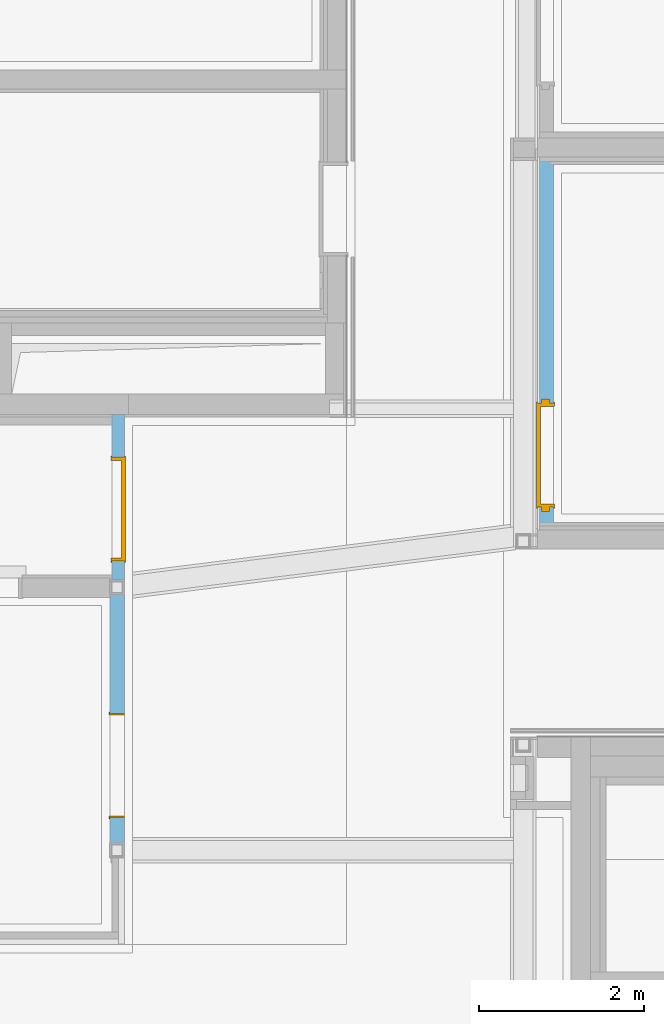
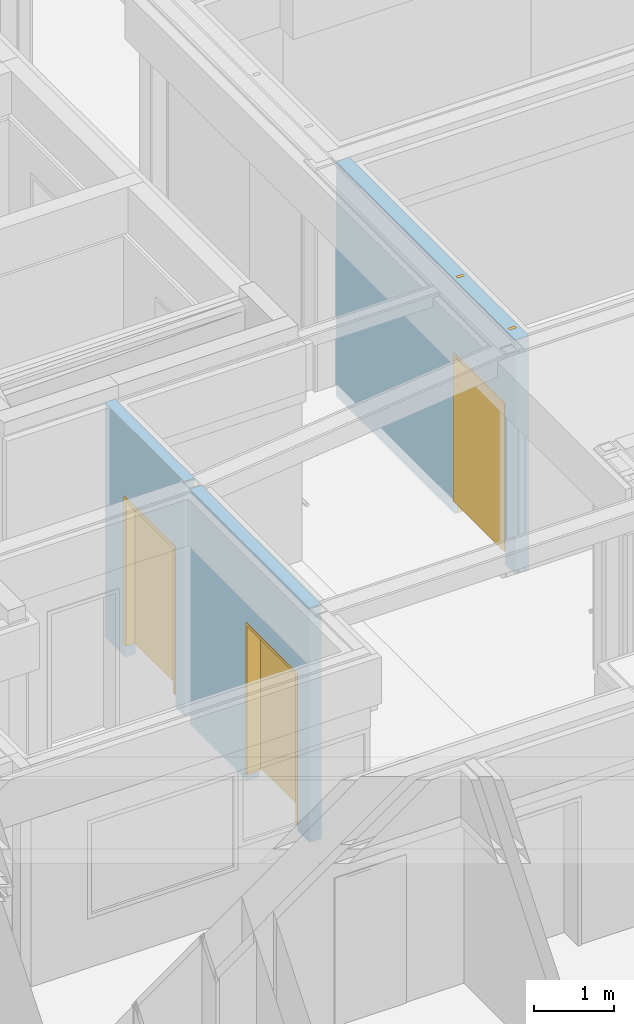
# One storey, part 121 of 207: 3 doors, 3 openings, plus 3 elements that do not belong to this part.
"""IFC4 building model written with IfcOpenShell, lengths in metres."""

import ifcopenshell
import ifcopenshell.guid

model = None  # the IFC model being written
_history = None  # IfcOwnerHistory: only IFC2X3 demands one
_inside = {}  # id of a spatial element -> (the spatial element, [elements in it])
_under = {}  # id of a project, library or spatial element -> (it, [spatial elements below it])
_declared = {}  # id of a project -> (the project, [libraries it declares])
_typed = {}  # id of a type object -> (the type object, [elements of that type])
_made_of = {}  # id of a material, layer set ... -> (it, [elements and type objects made of it])


def new_model(schema):
    """Start an empty IFC model of exactly this schema.

    Asked for "IFC4X3", IfcOpenShell would pick the latest addendum, in which some entities
    have other attributes; the version numbers below select the first issue.
    IFC2X3 requires an IfcOwnerHistory on every rooted entity: one is made here for all.
    """
    global model, _history
    if schema == "IFC4X3":
        model = ifcopenshell.file(schema_version=(4, 3, 0, 0))
    else:
        model = ifcopenshell.file(schema=schema)
    _inside.clear()
    _under.clear()
    _declared.clear()
    _typed.clear()
    _made_of.clear()
    _history = None
    if model.schema == "IFC2X3":
        org = make("IfcOrganization", Name="unknown")
        user = make(
            "IfcPersonAndOrganization",
            ThePerson=make("IfcPerson", FamilyName="unknown"),
            TheOrganization=org,
        )
        app = make(
            "IfcApplication",
            ApplicationDeveloper=org,
            Version="unknown",
            ApplicationFullName="unknown",
            ApplicationIdentifier="unknown",
        )
        _history = make(
            "IfcOwnerHistory",
            OwningUser=user,
            OwningApplication=app,
            ChangeAction="ADDED",
            CreationDate=0,
        )
    return model


def make(cls, **values):
    """One entity of the class cls with the attributes given. An attribute that is None is left unset."""
    return model.create_entity(
        cls, **{name: value for name, value in values.items() if value is not None}
    )


def entity(cls, *values):
    """Any entity or typed value of the class cls, its attributes in the order of the schema. None: left unset."""
    e = model.create_entity(cls)
    for i, value in enumerate(values):
        if value is not None:
            e[i] = value
    return e


def rooted(cls, **values):
    """An entity with a GlobalId (a new one), such as an element, a storey or a relation."""
    return make(cls, GlobalId=ifcopenshell.guid.new(), OwnerHistory=_history, **values)


def si_unit(unit_type, name, prefix=None):
    """IfcSIUnit, for example si_unit("LENGTHUNIT", "METRE", prefix="MILLI")."""
    return make("IfcSIUnit", UnitType=unit_type, Prefix=prefix, Name=name)


def converted_unit(unit_type, name, factor, base, dimensions=None, offset=None):
    """IfcConversionBasedUnit, such as the inch: factor (a typed value) times the base unit."""
    return make(
        "IfcConversionBasedUnit"
        if offset is None
        else "IfcConversionBasedUnitWithOffset",
        ConversionOffset=offset,
        Dimensions=None
        if dimensions is None
        else entity("IfcDimensionalExponents", *dimensions),
        UnitType=unit_type,
        Name=name,
        ConversionFactor=make(
            "IfcMeasureWithUnit", ValueComponent=factor, UnitComponent=base
        ),
    )


def derived_unit(unit_type, elements):
    """IfcDerivedUnit: a product of units, each with its exponent."""
    return make(
        "IfcDerivedUnit",
        Elements=[
            make("IfcDerivedUnitElement", Unit=unit, Exponent=power)
            for unit, power in elements
        ],
        UnitType=unit_type,
    )


def assignment(units):
    """IfcUnitAssignment: the units of a project."""
    return None if units is None else make("IfcUnitAssignment", Units=units)


def point(xyz):
    """IfcCartesianPoint."""
    return None if xyz is None else make("IfcCartesianPoint", Coordinates=xyz)


def direction(xyz):
    """IfcDirection."""
    return None if xyz is None else make("IfcDirection", DirectionRatios=xyz)


def frame(location, z_axis=None, x_axis=None):
    """IfcAxis2Placement3D, a coordinate frame: its origin and axes. An axis left out is left unset."""
    return make(
        "IfcAxis2Placement3D",
        Location=point(location),
        Axis=direction(z_axis),
        RefDirection=direction(x_axis),
    )


def frame_2d(location, x_axis=None):
    """IfcAxis2Placement2D, a coordinate frame in the plane: its origin and x axis."""
    return make(
        "IfcAxis2Placement2D", Location=point(location), RefDirection=direction(x_axis)
    )


def origin():
    """The frame at (0, 0, 0) with its axes left unset."""
    return frame((0.0, 0.0, 0.0))


def origin_with_axes():
    """The frame at (0, 0, 0) with the z axis (0, 0, 1) and the x axis (1, 0, 0) written out."""
    return frame((0.0, 0.0, 0.0), z_axis=(0.0, 0.0, 1.0), x_axis=(1.0, 0.0, 0.0))


def place(relative_to, where):
    """IfcLocalPlacement: puts the frame where relative to a parent placement (None: the world)."""
    return make(
        "IfcLocalPlacement", PlacementRelTo=relative_to, RelativePlacement=where
    )


def context(
    kind, dimensions, precision=None, world=None, true_north=None, identifier=None
):
    """IfcGeometricRepresentationContext, for example the 3D "Model" context."""
    return make(
        "IfcGeometricRepresentationContext",
        ContextIdentifier=identifier,
        ContextType=kind,
        CoordinateSpaceDimension=dimensions,
        Precision=precision,
        WorldCoordinateSystem=world,
        TrueNorth=true_north,
    )


def subcontext(parent, identifier, kind, view, scale=None):
    """IfcGeometricRepresentationSubContext, for example "Body" below "Model"."""
    return make(
        "IfcGeometricRepresentationSubContext",
        ContextIdentifier=identifier,
        ContextType=kind,
        ParentContext=parent,
        TargetScale=scale,
        TargetView=view,
    )


def project(units=None, contexts=None):
    """IfcProject with its units and contexts."""
    return rooted(
        "IfcProject",
        Name="project",
        RepresentationContexts=contexts,
        UnitsInContext=assignment(units),
    )


def spatial(cls, under=None, at=None, **own):
    """A site, building, storey or space (cls), placed at a placement, below another one or the project."""
    s = rooted(cls, ObjectPlacement=at, **own)
    if under is not None:
        _under.setdefault(under.id(), (under, []))[1].append(s)
    return s


def polyline(points):
    """IfcPolyline through the points."""
    return make("IfcPolyline", Points=[point(p) for p in points])


def profile(cls, at=None, kind="AREA", **sizes):
    """A parametric profile (cls). Its sizes go by their IFC names, for example OverallWidth=200.0."""
    return make(cls, ProfileType=kind, Position=at, **sizes)


def rectangle(**sizes):
    """IfcRectangleProfileDef."""
    return profile("IfcRectangleProfileDef", **sizes)


def outline(outer, holes=None, kind="AREA"):
    """IfcArbitraryClosedProfileDef: a profile drawn as a closed curve; with holes, ...WithVoids."""
    if holes is None:
        return make("IfcArbitraryClosedProfileDef", ProfileType=kind, OuterCurve=outer)
    return make(
        "IfcArbitraryProfileDefWithVoids",
        ProfileType=kind,
        OuterCurve=outer,
        InnerCurves=holes,
    )


def extrude(swept, where, along, depth):
    """IfcExtrudedAreaSolid: the profile swept, set in the frame where, extruded along a direction by depth."""
    return make(
        "IfcExtrudedAreaSolid",
        SweptArea=swept,
        Position=where,
        ExtrudedDirection=direction(along),
        Depth=depth,
    )


def faces_of(points, faces, orient=None, outer=None):
    """IfcFace entities. A face is a list of loops; a loop is a list of indices into points, from 0.

    orient and outer hold one flag for each loop. By default every Orientation is true, the
    first loop of a face is its IfcFaceOuterBound and the others are IfcFaceBound.
    """
    made = []
    for i, loops in enumerate(faces):
        bounds = []
        for j, loop in enumerate(loops):
            is_outer = j == 0 if outer is None else outer[i][j]
            bounds.append(
                make(
                    "IfcFaceOuterBound" if is_outer else "IfcFaceBound",
                    Bound=make("IfcPolyLoop", Polygon=[points[k] for k in loop]),
                    Orientation=True if orient is None else orient[i][j],
                )
            )
        made.append(make("IfcFace", Bounds=bounds))
    return made


def faceted_brep(points, faces, orient=None, outer=None, voids=None):
    """IfcFacetedBrep: a solid bounded by flat faces; with voids (closed shells), ...WithVoids."""
    shared = [point(p) for p in points]
    hull = make("IfcClosedShell", CfsFaces=faces_of(shared, faces, orient, outer))
    if voids is None:
        return make("IfcFacetedBrep", Outer=hull)
    return make(
        "IfcFacetedBrepWithVoids",
        Outer=hull,
        Voids=[
            make(cls, CfsFaces=faces_of(shared, fs, o, b)) for cls, fs, o, b in voids
        ],
    )


def shape(context_of_items, identifier, shape_type, items):
    """IfcShapeRepresentation: the items that make up one representation, for example the "Body"."""
    return make(
        "IfcShapeRepresentation",
        ContextOfItems=context_of_items,
        RepresentationIdentifier=identifier,
        RepresentationType=shape_type,
        Items=items,
    )


def source(mapping_origin, context_of_items, identifier, shape_type, items):
    """IfcRepresentationMap: a shape defined once, which mapped items show again and again."""
    return make(
        "IfcRepresentationMap",
        MappingOrigin=mapping_origin,
        MappedRepresentation=shape(context_of_items, identifier, shape_type, items),
    )


def transform(
    local_origin,
    x_axis=None,
    y_axis=None,
    z_axis=None,
    scale=None,
    scale2=None,
    scale3=None,
    uniform=True,
):
    """IfcCartesianTransformationOperator3D, or its non-uniform kind. x_axis, y_axis, z_axis: its Axis1, 2, 3."""
    if uniform:
        return make(
            "IfcCartesianTransformationOperator3D",
            Axis1=direction(x_axis),
            Axis2=direction(y_axis),
            LocalOrigin=point(local_origin),
            Scale=scale,
            Axis3=direction(z_axis),
        )
    return make(
        "IfcCartesianTransformationOperator3DnonUniform",
        Axis1=direction(x_axis),
        Axis2=direction(y_axis),
        LocalOrigin=point(local_origin),
        Scale=scale,
        Axis3=direction(z_axis),
        Scale2=scale2,
        Scale3=scale3,
    )


def mapped(mapping_source, mapping_target):
    """IfcMappedItem: shows the shape of a source again, moved by a transform."""
    return make(
        "IfcMappedItem", MappingSource=mapping_source, MappingTarget=mapping_target
    )


def material(Name=None, Category=None):
    """IfcMaterial."""
    return make("IfcMaterial", Name=Name, Category=Category)


def made_of(thing, what):
    """Note that an element or type object is made of a material, layer set ...; save() writes the relation."""
    if what is not None:
        _made_of.setdefault(what.id(), (what, []))[1].append(thing)
    return thing


def type_object(cls, material=None, **own):
    """A type object (cls), such as IfcWallType, which elements share."""
    return made_of(rooted(cls, **own), material)


def element(
    cls,
    number,
    at=None,
    inside=None,
    cuts=None,
    type_object=None,
    material=None,
    context=None,
    identifier="Body",
    shape_type=None,
    held_by="IfcProductDefinitionShape",
    body=None,
    shapes=None,
    **own,
):
    """One element of the class cls, such as IfcWall. Its Tag is "e" and its number.

    at: its placement. inside: the storey or other place that contains it. cuts: it is an
    opening in that element (IfcRelVoidsElement). A single representation is given by context,
    identifier, shape_type and body (its items); several are given by shapes. held_by: the class
    of the entity that holds the representations. save() writes the other relations.
    """
    e = rooted(cls, Tag="e%d" % number, ObjectPlacement=at, **own)
    if body is not None:
        shapes = [shape(context, identifier, shape_type, body)]
    if shapes is not None:
        e.Representation = make(held_by, Representations=shapes)
    if inside is not None:
        _inside.setdefault(inside.id(), (inside, []))[1].append(e)
    if cuts is not None:
        rooted(
            "IfcRelVoidsElement", RelatingBuildingElement=cuts, RelatedOpeningElement=e
        )
    if type_object is not None:
        _typed.setdefault(type_object.id(), (type_object, []))[1].append(e)
    return made_of(e, material)


def fill(opening, filler):
    """IfcRelFillsElement: the door or window that sits in an opening."""
    return rooted(
        "IfcRelFillsElement",
        RelatingOpeningElement=opening,
        RelatedBuildingElement=filler,
    )


def aggregate(whole, parts):
    """IfcRelAggregates: a whole, such as a stair, and the parts it consists of."""
    return rooted("IfcRelAggregates", RelatingObject=whole, RelatedObjects=parts)


def save(model, path):
    """Write the relations noted so far, then the file.

    IfcRelAggregates (storeys below a building ...), IfcRelContainedInSpatialStructure (elements
    in a storey), IfcRelDefinesByType, IfcRelAssociatesMaterial and IfcRelDeclares: one each for
    every whole, place, type object, material and project.
    """
    for whole, parts in _under.values():
        aggregate(whole, parts)
    for where, things in _inside.values():
        rooted(
            "IfcRelContainedInSpatialStructure",
            RelatedElements=things,
            RelatingStructure=where,
        )
    for kind, things in _typed.values():
        rooted("IfcRelDefinesByType", RelatedObjects=things, RelatingType=kind)
    for what, things in _made_of.values():
        rooted("IfcRelAssociatesMaterial", RelatedObjects=things, RelatingMaterial=what)
    for by, libraries in _declared.values():
        rooted("IfcRelDeclares", RelatingContext=by, RelatedDefinitions=libraries)
    model.write(path)


model = new_model("IFC4")

# Units and contexts
model_context = context("Model", 3, precision=1e-05, world=origin())
body_context = subcontext(model_context, "Body", "Model", "MODEL_VIEW")
ifc_project = project(units=[si_unit("LENGTHUNIT", "METRE"), si_unit("AREAUNIT", "SQUARE_METRE"), si_unit("VOLUMEUNIT", "CUBIC_METRE"), si_unit("MASSUNIT", "GRAM", prefix="KILO"), converted_unit("PLANEANGLEUNIT", "DEGREE", entity("IfcPlaneAngleMeasure", 0.0174532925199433), si_unit("PLANEANGLEUNIT", "RADIAN"), dimensions=[0, 0, 0, 0, 0, 0, 0]), derived_unit("THERMALTRANSMITTANCEUNIT", [(si_unit("POWERUNIT", "WATT"), 1), (si_unit("THERMODYNAMICTEMPERATUREUNIT", "KELVIN"), -1), (si_unit("LENGTHUNIT", "METRE"), -2)]), derived_unit("VOLUMETRICFLOWRATEUNIT", [(si_unit("LENGTHUNIT", "METRE"), 3), (converted_unit("TIMEUNIT", "hour", entity("IfcTimeMeasure", 3600.0), si_unit("TIMEUNIT", "SECOND"), dimensions=[0, 0, 1, 0, 0, 0, 0]), -1), (si_unit("LENGTHUNIT", "METRE"), -1)])], contexts=[model_context])

# Site, building, storey
site_placement = place(None, origin())
site = spatial("IfcSite", under=ifc_project, at=site_placement, Name="Psychiatrie Neubau Wunstorf", CompositionType="ELEMENT")
building_placement = place(site_placement, origin())
building = spatial("IfcBuilding", under=site, at=building_placement, Name="Neubau H2 Stationsgebäude", CompositionType="ELEMENT")
storey_placement = place(building_placement, frame((0.0, 0.0, -0.2)))
storey = spatial("IfcBuildingStorey", under=building, at=storey_placement, Name="H2 Ebene 0", CompositionType="ELEMENT", Elevation=-0.2)

# Wall, opening, door
ifc_material_1 = material(Name="WI-LB")
wall_1_placement = place(storey_placement, frame((65.4249963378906, 4.04999694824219, 0.0), z_axis=(0.0, 0.0, 1.0), x_axis=(0.0, 1.0, 0.0)))
wall_1 = element("IfcWall", 1, at=wall_1_placement, inside=storey, material=ifc_material_1, context=body_context, shape_type="SweptSolid", body=[
    extrude(rectangle(XDim=3.00650268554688, YDim=0.175, at=frame_2d((1.50325134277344, 0.0875), x_axis=(1.0, 0.0))), origin_with_axes(), (0.0, 0.0, 1.0), 3.6),
])
opening_1_placement = place(wall_1_placement, frame((0.307502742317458, 0.0, 0.0), z_axis=(0.0, 1.0, 0.0), x_axis=(0.0, 0.0, 1.0)))
opening_1 = element("IfcOpeningElement", 2, at=opening_1_placement, cuts=wall_1, Name="Türöffnung", ObjectType="Opening", context=body_context, shape_type="SweptSolid", body=[
    extrude(outline(polyline([(2.41, 1.26), (2.41, 0.0), (0.0, 0.0), (0.0, 1.26), (2.41, 1.26)])), origin_with_axes(), (0.0, 0.0, 1.0), 0.175),
])
ifc_material_2 = material(Name="TI-1F-UZ-ZK")
door_type_1 = type_object("IfcDoorType", Name="SMT", OperationType="SLIDING_TO_LEFT", ParameterTakesPrecedence=False, PredefinedType="DOOR")
shared_shape_1 = source(origin_with_axes(), body_context, "Body", "Brep", [
    faceted_brep([(-0.0500000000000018, -0.0349999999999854, 2.41), (2.72, -0.0349999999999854, 2.41), (2.72, 0.115000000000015, 2.41), (-0.0500000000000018, 0.115000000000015, 2.41), (-0.0500000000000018, 0.115000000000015, 2.66), (2.72, 0.115000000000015, 2.66), (2.72, -0.0349999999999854, 2.66), (-0.0500000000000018, -0.0349999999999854, 2.66)], [[[0, 1, 2, 3]], [[4, 5, 6, 7]], [[3, 4, 7, 0]], [[2, 5, 4, 3]], [[1, 6, 5, 2]], [[0, 7, 6, 1]]], orient=[[False], [False], [False], [False], [False], [False]]),
])
shared_shape_2 = source(origin_with_axes(), body_context, "Body", "Brep", [
    faceted_brep([(1.3375, 0.152500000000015, 0.0), (1.3375, 0.252500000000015, 0.0), (1.2875, 0.252500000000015, 0.0), (1.2875, 0.152500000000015, 0.0), (1.3375, 0.252500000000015, 3.55), (1.3375, 0.152500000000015, 3.55), (1.2875, 0.152500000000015, 3.55), (1.2875, 0.252500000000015, 3.55)], [[[0, 1, 2, 3]], [[4, 5, 6, 7]], [[1, 0, 5, 4]], [[2, 1, 4, 7]], [[3, 2, 7, 6]], [[0, 3, 6, 5]]], orient=[[False], [False], [False], [False], [False], [False]]),
    faceted_brep([(2.6675, 0.152500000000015, 0.0), (2.6675, 0.252500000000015, 0.0), (2.6175, 0.252500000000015, 0.0), (2.6175, 0.152500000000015, 0.0), (2.6675, 0.252500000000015, 3.55), (2.6675, 0.152500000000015, 3.55), (2.6175, 0.152500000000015, 3.55), (2.6175, 0.252500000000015, 3.55)], [[[0, 1, 2, 3]], [[4, 5, 6, 7]], [[1, 0, 5, 4]], [[2, 1, 4, 7]], [[3, 2, 7, 6]], [[0, 3, 6, 5]]], orient=[[False], [False], [False], [False], [False], [False]]),
    faceted_brep([(-0.0275000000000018, 0.152500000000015, 0.0), (-0.0275000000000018, 0.252500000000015, 0.0), (-0.0775000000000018, 0.252500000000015, 0.0), (-0.0775000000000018, 0.152500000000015, 0.0), (-0.0275000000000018, 0.252500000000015, 3.55), (-0.0275000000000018, 0.152500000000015, 3.55), (-0.0775000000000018, 0.152500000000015, 3.55), (-0.0775000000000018, 0.252500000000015, 3.55)], [[[0, 1, 2, 3]], [[4, 5, 6, 7]], [[1, 0, 5, 4]], [[2, 1, 4, 7]], [[3, 2, 7, 6]], [[0, 3, 6, 5]]], orient=[[False], [False], [False], [False], [False], [False]]),
    faceted_brep([(2.6175, 0.152500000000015, 2.4375), (2.6175, 0.252500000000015, 2.4375), (-0.0275000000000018, 0.252500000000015, 2.4375), (-0.0275000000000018, 0.152500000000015, 2.4375), (2.6175, 0.252500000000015, 2.4875), (2.6175, 0.152500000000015, 2.4875), (-0.0275000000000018, 0.152500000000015, 2.4875), (-0.0275000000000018, 0.252500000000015, 2.4875)], [[[0, 1, 2, 3]], [[4, 5, 6, 7]], [[1, 0, 5, 4]], [[2, 1, 4, 7]], [[3, 2, 7, 6]], [[0, 3, 6, 5]]], orient=[[False], [False], [False], [False], [False], [False]]),
])
shared_shape_3 = source(origin_with_axes(), body_context, "Body", "Brep", [
    faceted_brep([(1.26, 0.300000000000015, 2.41), (1.24, 0.300000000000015, 2.41), (1.24, 0.300000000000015, 0.1), (1.26, 0.300000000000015, 0.1), (1.26, 0.105000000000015, 0.1), (1.24, 0.105000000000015, 0.1), (1.24, 0.105000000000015, 2.41), (1.26, 0.105000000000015, 2.41)], [[[0, 1, 2, 3]], [[4, 5, 6, 7]], [[3, 4, 7, 0]], [[2, 5, 4, 3]], [[1, 6, 5, 2]], [[0, 7, 6, 1]]], orient=[[False], [False], [False], [False], [False], [False]]),
    faceted_brep([(1.26, 0.300000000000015, 2.43), (1.26, 0.300000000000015, 0.1), (1.28, 0.300000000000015, 0.1), (1.28, 0.300000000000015, 2.43), (1.26, 0.290000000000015, 0.1), (1.26, 0.290000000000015, 2.43), (1.28, 0.290000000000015, 2.43), (1.28, 0.290000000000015, 0.1)], [[[0, 1, 2, 3]], [[4, 5, 6, 7]], [[1, 0, 5, 4]], [[2, 1, 4, 7]], [[3, 2, 7, 6]], [[0, 3, 6, 5]]], orient=[[False], [False], [False], [False], [False], [False]]),
    faceted_brep([(1.26, 0.115000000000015, 2.43), (1.26, 0.115000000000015, 0.1), (1.28, 0.115000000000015, 0.1), (1.28, 0.115000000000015, 2.43), (1.26, 0.105000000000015, 0.1), (1.26, 0.105000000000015, 2.43), (1.28, 0.105000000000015, 2.43), (1.28, 0.105000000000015, 0.1)], [[[0, 1, 2, 3]], [[4, 5, 6, 7]], [[1, 0, 5, 4]], [[2, 1, 4, 7]], [[3, 2, 7, 6]], [[0, 3, 6, 5]]], orient=[[False], [False], [False], [False], [False], [False]]),
    faceted_brep([(0.0199999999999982, 0.300000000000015, 2.41), (0.0, 0.300000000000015, 2.41), (0.0, 0.300000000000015, 0.1), (0.0199999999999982, 0.300000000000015, 0.1), (0.0199999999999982, 0.105000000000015, 0.1), (0.0, 0.105000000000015, 0.1), (0.0, 0.105000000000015, 2.41), (0.0199999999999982, 0.105000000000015, 2.41)], [[[0, 1, 2, 3]], [[4, 5, 6, 7]], [[3, 4, 7, 0]], [[2, 5, 4, 3]], [[1, 6, 5, 2]], [[0, 7, 6, 1]]], orient=[[False], [False], [False], [False], [False], [False]]),
    faceted_brep([(0.0, 0.300000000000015, 2.43), (-0.0200000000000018, 0.300000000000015, 2.43), (-0.0200000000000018, 0.300000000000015, 0.1), (0.0, 0.300000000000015, 0.1), (0.0, 0.290000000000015, 0.1), (-0.0200000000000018, 0.290000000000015, 0.1), (-0.0200000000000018, 0.290000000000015, 2.43), (0.0, 0.290000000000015, 2.43)], [[[0, 1, 2, 3]], [[4, 5, 6, 7]], [[3, 4, 7, 0]], [[2, 5, 4, 3]], [[1, 6, 5, 2]], [[0, 7, 6, 1]]], orient=[[False], [False], [False], [False], [False], [False]]),
    faceted_brep([(0.0, 0.115000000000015, 2.43), (-0.0200000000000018, 0.115000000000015, 2.43), (-0.0200000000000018, 0.115000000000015, 0.1), (0.0, 0.115000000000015, 0.1), (0.0, 0.105000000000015, 0.1), (-0.0200000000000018, 0.105000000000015, 0.1), (-0.0200000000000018, 0.105000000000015, 2.43), (0.0, 0.105000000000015, 2.43)], [[[0, 1, 2, 3]], [[4, 5, 6, 7]], [[3, 4, 7, 0]], [[2, 5, 4, 3]], [[1, 6, 5, 2]], [[0, 7, 6, 1]]], orient=[[False], [False], [False], [False], [False], [False]]),
    faceted_brep([(1.24, 0.300000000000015, 2.41), (0.0199999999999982, 0.300000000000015, 2.41), (0.0199999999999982, 0.300000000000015, 2.385), (1.24, 0.300000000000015, 2.385), (1.24, 0.105000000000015, 2.385), (0.0199999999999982, 0.105000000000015, 2.385), (0.0199999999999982, 0.105000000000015, 2.41), (1.24, 0.105000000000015, 2.41)], [[[0, 1, 2, 3]], [[4, 5, 6, 7]], [[3, 4, 7, 0]], [[2, 5, 4, 3]], [[1, 6, 5, 2]], [[0, 7, 6, 1]]], orient=[[False], [False], [False], [False], [False], [False]]),
    faceted_brep([(1.26, 0.300000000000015, 2.43), (0.0, 0.300000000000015, 2.43), (0.0, 0.300000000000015, 2.41), (1.26, 0.300000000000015, 2.41), (1.26, 0.290000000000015, 2.41), (0.0, 0.290000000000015, 2.41), (0.0, 0.290000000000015, 2.43), (1.26, 0.290000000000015, 2.43)], [[[0, 1, 2, 3]], [[4, 5, 6, 7]], [[3, 4, 7, 0]], [[2, 5, 4, 3]], [[1, 6, 5, 2]], [[0, 7, 6, 1]]], orient=[[False], [False], [False], [False], [False], [False]]),
    faceted_brep([(1.26, 0.115000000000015, 2.43), (0.0, 0.115000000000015, 2.43), (0.0, 0.115000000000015, 2.41), (1.26, 0.115000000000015, 2.41), (1.26, 0.105000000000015, 2.41), (0.0, 0.105000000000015, 2.41), (0.0, 0.105000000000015, 2.43), (1.26, 0.105000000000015, 2.43)], [[[0, 1, 2, 3]], [[4, 5, 6, 7]], [[3, 4, 7, 0]], [[2, 5, 4, 3]], [[1, 6, 5, 2]], [[0, 7, 6, 1]]], orient=[[False], [False], [False], [False], [False], [False]]),
    faceted_brep([(1.392, 0.0750000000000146, 2.465), (0.111999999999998, 0.0750000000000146, 2.465), (0.111999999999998, 0.0750000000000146, 0.1), (1.392, 0.0750000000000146, 0.1), (1.392, 0.0250000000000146, 0.1), (0.111999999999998, 0.0250000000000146, 0.1), (0.111999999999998, 0.0250000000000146, 2.465), (1.392, 0.0250000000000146, 2.465)], [[[0, 1, 2, 3]], [[4, 5, 6, 7]], [[3, 4, 7, 0]], [[2, 5, 4, 3]], [[1, 6, 5, 2]], [[0, 7, 6, 1]]], orient=[[False], [False], [False], [False], [False], [False]]),
])
door_1_placement = place(opening_1_placement, frame((0.0, 0.0, -0.115), z_axis=(1.0, 0.0, 0.0), x_axis=(0.0, 1.0, 0.0)))
door_1 = element("IfcDoor", 3, at=door_1_placement, inside=storey, type_object=door_type_1, material=ifc_material_2, Name="SMT", OverallHeight=2.41, OverallWidth=1.26, context=body_context, shape_type="MappedRepresentation", body=[
    mapped(shared_shape_1, transform((0.0, 0.0, 0.0), x_axis=(1.0, 0.0, 0.0), y_axis=(0.0, 1.0, 0.0), z_axis=(0.0, 0.0, 1.0), scale=1.0)),
    mapped(shared_shape_2, transform((0.0, 0.0, 0.0), x_axis=(1.0, 0.0, 0.0), y_axis=(0.0, 1.0, 0.0), z_axis=(0.0, 0.0, 1.0), scale=1.0)),
    mapped(shared_shape_3, transform((0.0, 0.0, 0.0), x_axis=(1.0, 0.0, 0.0), y_axis=(0.0, 1.0, 0.0), z_axis=(0.0, 0.0, 1.0), scale=1.0)),
])
fill(opening_1, door_1)

ifc_material_3 = material(Name="WI-LB")
wall_2_placement = place(storey_placement, frame((65.4249963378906, 7.23649963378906, 0.0), z_axis=(0.0, 0.0, 1.0), x_axis=(0.0, 1.0, 0.0)))
wall_2 = element("IfcWall", 4, at=wall_2_placement, inside=storey, material=ifc_material_3, context=body_context, shape_type="SweptSolid", body=[
    extrude(rectangle(XDim=1.9985000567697, YDim=0.15, at=frame_2d((0.999250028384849, 0.075), x_axis=(1.0, 0.0))), origin_with_axes(), (0.0, 0.0, 1.0), 3.6),
])
opening_2_placement = place(wall_2_placement, frame((1.4851960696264, 0.15, 0.0), z_axis=(0.0, -1.0, 0.0), x_axis=(0.0, 0.0, 1.0)))
opening_2 = element("IfcOpeningElement", 5, at=opening_2_placement, cuts=wall_2, Name="Türöffnung", ObjectType="Opening", context=body_context, shape_type="SweptSolid", body=[
    extrude(outline(polyline([(2.46, 1.26), (2.46, 0.0), (0.0, 0.0), (0.0, 1.26), (2.46, 1.26)])), origin_with_axes(), (0.0, 0.0, 1.0), 0.15),
])
ifc_material_4 = material(Name="TI-1F-UZ-ZK")
door_type_2 = type_object("IfcDoorType", Name="SMT", OperationType="SINGLE_SWING_RIGHT", ParameterTakesPrecedence=False, PredefinedType="DOOR")
shared_shape_4 = source(origin_with_axes(), body_context, "Body", "Brep", [
    faceted_brep([(-0.0499999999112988, 0.0250000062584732, 0.0), (0.0, 0.0250000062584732, 0.0), (0.0, 0.124999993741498, 0.0), (-0.0499999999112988, 0.124999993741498, 0.0), (-0.0499999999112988, 0.124999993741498, 3.6), (0.0, 0.124999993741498, 3.6), (0.0, 0.0250000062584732, 3.6), (-0.0499999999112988, 0.0250000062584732, 3.6)], [[[0, 1, 2, 3]], [[4, 5, 6, 7]], [[3, 4, 7, 0]], [[2, 5, 4, 3]], [[1, 6, 5, 2]], [[0, 7, 6, 1]]], orient=[[False], [False], [False], [False], [False], [False]]),
    faceted_brep([(1.26, 0.0250000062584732, 0.0), (1.30999999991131, 0.0250000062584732, 0.0), (1.30999999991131, 0.124999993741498, 0.0), (1.26, 0.124999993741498, 0.0), (1.26, 0.124999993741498, 3.6), (1.30999999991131, 0.124999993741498, 3.6), (1.30999999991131, 0.0250000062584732, 3.6), (1.26, 0.0250000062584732, 3.6)], [[[0, 1, 2, 3]], [[4, 5, 6, 7]], [[3, 4, 7, 0]], [[2, 5, 4, 3]], [[1, 6, 5, 2]], [[0, 7, 6, 1]]], orient=[[False], [False], [False], [False], [False], [False]]),
    faceted_brep([(0.0, 0.0250000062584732, 2.46), (1.26, 0.0250000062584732, 2.46), (1.26, 0.124999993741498, 2.46), (0.0, 0.124999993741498, 2.46), (0.0, 0.124999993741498, 2.51), (1.26, 0.124999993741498, 2.51), (1.26, 0.0250000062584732, 2.51), (0.0, 0.0250000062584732, 2.51)], [[[0, 1, 2, 3]], [[4, 5, 6, 7]], [[3, 4, 7, 0]], [[2, 5, 4, 3]], [[1, 6, 5, 2]], [[0, 7, 6, 1]]], orient=[[False], [False], [False], [False], [False], [False]]),
])
shared_shape_5 = source(origin_with_axes(), body_context, "Body", "Brep", [
    faceted_brep([(1.26, -0.0150000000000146, 2.46), (1.26, -0.0150000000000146, 0.2), (1.22, -0.0150000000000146, 0.2), (1.22, -0.0150000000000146, 2.46), (1.26, 0.164999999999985, 0.2), (1.26, 0.164999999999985, 2.46), (1.22, 0.164999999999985, 2.46), (1.22, 0.164999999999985, 0.2)], [[[0, 1, 2, 3]], [[4, 5, 6, 7]], [[1, 0, 5, 4]], [[2, 1, 4, 7]], [[3, 2, 7, 6]], [[0, 3, 6, 5]]], orient=[[False], [False], [False], [False], [False], [False]]),
    faceted_brep([(1.26, -0.0150000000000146, 2.475), (1.275, -0.0150000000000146, 2.475), (1.275, -0.0150000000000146, 0.2), (1.26, -0.0150000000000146, 0.2), (1.26, 0.0, 0.2), (1.275, 0.0, 0.2), (1.275, 0.0, 2.475), (1.26, 0.0, 2.475)], [[[0, 1, 2, 3]], [[4, 5, 6, 7]], [[3, 4, 7, 0]], [[2, 5, 4, 3]], [[1, 6, 5, 2]], [[0, 7, 6, 1]]], orient=[[False], [False], [False], [False], [False], [False]]),
    faceted_brep([(1.26, 0.149999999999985, 2.475), (1.275, 0.149999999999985, 2.475), (1.275, 0.149999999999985, 0.2), (1.26, 0.149999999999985, 0.2), (1.26, 0.164999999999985, 0.2), (1.275, 0.164999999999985, 0.2), (1.275, 0.164999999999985, 2.475), (1.26, 0.164999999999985, 2.475)], [[[0, 1, 2, 3]], [[4, 5, 6, 7]], [[3, 4, 7, 0]], [[2, 5, 4, 3]], [[1, 6, 5, 2]], [[0, 7, 6, 1]]], orient=[[False], [False], [False], [False], [False], [False]]),
    faceted_brep([(0.0400000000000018, -0.0150000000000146, 2.46), (0.0400000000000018, -0.0150000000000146, 0.2), (0.0, -0.0150000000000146, 0.2), (0.0, -0.0150000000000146, 2.46), (0.0400000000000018, 0.164999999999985, 0.2), (0.0400000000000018, 0.164999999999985, 2.46), (0.0, 0.164999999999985, 2.46), (0.0, 0.164999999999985, 0.2)], [[[0, 1, 2, 3]], [[4, 5, 6, 7]], [[1, 0, 5, 4]], [[2, 1, 4, 7]], [[3, 2, 7, 6]], [[0, 3, 6, 5]]], orient=[[False], [False], [False], [False], [False], [False]]),
    faceted_brep([(0.0, -0.0150000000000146, 2.475), (0.0, -0.0150000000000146, 0.2), (-0.0149999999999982, -0.0150000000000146, 0.2), (-0.0149999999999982, -0.0150000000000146, 2.475), (0.0, 0.0, 0.2), (0.0, 0.0, 2.475), (-0.0149999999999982, 0.0, 2.475), (-0.0149999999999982, 0.0, 0.2)], [[[0, 1, 2, 3]], [[4, 5, 6, 7]], [[1, 0, 5, 4]], [[2, 1, 4, 7]], [[3, 2, 7, 6]], [[0, 3, 6, 5]]], orient=[[False], [False], [False], [False], [False], [False]]),
    faceted_brep([(0.0, 0.149999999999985, 2.475), (0.0, 0.149999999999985, 0.2), (-0.0149999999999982, 0.149999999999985, 0.2), (-0.0149999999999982, 0.149999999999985, 2.475), (0.0, 0.164999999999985, 0.2), (0.0, 0.164999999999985, 2.475), (-0.0149999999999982, 0.164999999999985, 2.475), (-0.0149999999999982, 0.164999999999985, 0.2)], [[[0, 1, 2, 3]], [[4, 5, 6, 7]], [[1, 0, 5, 4]], [[2, 1, 4, 7]], [[3, 2, 7, 6]], [[0, 3, 6, 5]]], orient=[[False], [False], [False], [False], [False], [False]]),
    faceted_brep([(1.22, -0.0150000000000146, 2.46), (1.22, -0.0150000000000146, 2.42), (0.0400000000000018, -0.0150000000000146, 2.42), (0.0400000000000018, -0.0150000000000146, 2.46), (1.22, 0.164999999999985, 2.42), (1.22, 0.164999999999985, 2.46), (0.0400000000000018, 0.164999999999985, 2.46), (0.0400000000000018, 0.164999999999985, 2.42)], [[[0, 1, 2, 3]], [[4, 5, 6, 7]], [[1, 0, 5, 4]], [[2, 1, 4, 7]], [[3, 2, 7, 6]], [[0, 3, 6, 5]]], orient=[[False], [False], [False], [False], [False], [False]]),
    faceted_brep([(1.26, -0.0150000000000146, 2.475), (1.26, -0.0150000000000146, 2.46), (0.0, -0.0150000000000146, 2.46), (0.0, -0.0150000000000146, 2.475), (1.26, 0.0, 2.46), (1.26, 0.0, 2.475), (0.0, 0.0, 2.475), (0.0, 0.0, 2.46)], [[[0, 1, 2, 3]], [[4, 5, 6, 7]], [[1, 0, 5, 4]], [[2, 1, 4, 7]], [[3, 2, 7, 6]], [[0, 3, 6, 5]]], orient=[[False], [False], [False], [False], [False], [False]]),
    faceted_brep([(1.26, 0.149999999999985, 2.475), (1.26, 0.149999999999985, 2.46), (0.0, 0.149999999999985, 2.46), (0.0, 0.149999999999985, 2.475), (1.26, 0.164999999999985, 2.46), (1.26, 0.164999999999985, 2.475), (0.0, 0.164999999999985, 2.475), (0.0, 0.164999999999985, 2.46)], [[[0, 1, 2, 3]], [[4, 5, 6, 7]], [[1, 0, 5, 4]], [[2, 1, 4, 7]], [[3, 2, 7, 6]], [[0, 3, 6, 5]]], orient=[[False], [False], [False], [False], [False], [False]]),
    faceted_brep([(1.235, 0.115999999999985, 2.435), (1.235, 0.115999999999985, 0.2), (0.0250000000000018, 0.115999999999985, 0.2), (0.0250000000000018, 0.115999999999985, 2.435), (1.235, 0.165999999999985, 0.2), (1.235, 0.165999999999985, 2.435), (0.0250000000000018, 0.165999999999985, 2.435), (0.0250000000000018, 0.165999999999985, 0.2)], [[[0, 1, 2, 3]], [[4, 5, 6, 7]], [[1, 0, 5, 4]], [[2, 1, 4, 7]], [[3, 2, 7, 6]], [[0, 3, 6, 5]]], orient=[[False], [False], [False], [False], [False], [False]]),
])
door_2_placement = place(opening_2_placement, frame((0.0, 0.0, 0.0), z_axis=(1.0, 0.0, 0.0), x_axis=(0.0, 1.0, 0.0)))
door_2 = element("IfcDoor", 6, at=door_2_placement, inside=storey, type_object=door_type_2, material=ifc_material_4, Name="SMT", OverallHeight=2.46, OverallWidth=1.26, context=body_context, shape_type="MappedRepresentation", body=[
    mapped(shared_shape_4, transform((0.0, 0.0, 0.0), x_axis=(1.0, 0.0, 0.0), y_axis=(0.0, 1.0, 0.0), z_axis=(0.0, 0.0, 1.0), scale=1.0)),
    mapped(shared_shape_5, transform((0.0, 0.0, 0.0), x_axis=(1.0, 0.0, 0.0), y_axis=(0.0, 1.0, 0.0), z_axis=(0.0, 0.0, 1.0), scale=1.0)),
])
fill(opening_2, door_2)

ifc_material_5 = material(Name="WI-LB")
wall_3_placement = place(storey_placement, frame((70.429999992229, 12.354, 0.0), z_axis=(0.0, 0.0, 1.0), x_axis=(3.51229628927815e-09, -1.0, 0.0)))
wall_3 = element("IfcWall", 7, at=wall_3_placement, inside=storey, material=ifc_material_5, context=body_context, shape_type="SweptSolid", body=[
    extrude(outline(polyline([(-4.51450000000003, 1.58562615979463e-08), (0.0, 1.58562615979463e-08), (0.0, 0.19), (-4.51449999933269, 0.190000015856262), (-4.51450000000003, 1.58562615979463e-08)])), frame((4.51450000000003, -1.58562615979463e-08, 0.0), z_axis=(0.0, 0.0, 1.0), x_axis=(1.0, 0.0, 0.0)), (0.0, 0.0, 1.0), 3.6),
])
opening_3_placement = place(wall_3_placement, frame((4.23899587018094, 0.189999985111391, 0.0), z_axis=(-3.51229621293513e-09, -1.0, 0.0), x_axis=(0.0, 0.0, 1.0)))
opening_3 = element("IfcOpeningElement", 8, at=opening_3_placement, cuts=wall_3, Name="Türöffnung", ObjectType="Opening", context=body_context, shape_type="SweptSolid", body=[
    extrude(outline(polyline([(2.46, 1.26), (2.46, 0.0), (0.0, 0.0), (0.0, 1.26), (2.46, 1.26)])), origin_with_axes(), (0.0, 0.0, 1.0), 0.19),
])
ifc_material_6 = material(Name="TI-1F-UZ-D")
door_type_3 = type_object("IfcDoorType", Name="SMT", OperationType="SINGLE_SWING_RIGHT", ParameterTakesPrecedence=False, PredefinedType="DOOR")
shared_shape_6 = source(origin_with_axes(), body_context, "Body", "Brep", [
    faceted_brep([(1.30999999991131, 0.0450000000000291, 0.0), (1.30999999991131, 0.145000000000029, 0.0), (1.26, 0.145000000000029, 0.0), (1.26, 0.0450000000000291, 0.0), (1.30999999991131, 0.145000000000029, 3.6), (1.30999999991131, 0.0450000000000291, 3.6), (1.26, 0.0450000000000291, 3.6), (1.26, 0.145000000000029, 3.6)], [[[0, 1, 2, 3]], [[4, 5, 6, 7]], [[1, 0, 5, 4]], [[2, 1, 4, 7]], [[3, 2, 7, 6]], [[0, 3, 6, 5]]], orient=[[False], [False], [False], [False], [False], [False]]),
    faceted_brep([(0.0, 0.0450000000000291, 0.0), (0.0, 0.145000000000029, 0.0), (-0.0499999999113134, 0.145000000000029, 0.0), (-0.0499999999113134, 0.0450000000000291, 0.0), (0.0, 0.145000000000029, 3.6), (0.0, 0.0450000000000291, 3.6), (-0.0499999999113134, 0.0450000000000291, 3.6), (-0.0499999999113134, 0.145000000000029, 3.6)], [[[0, 1, 2, 3]], [[4, 5, 6, 7]], [[1, 0, 5, 4]], [[2, 1, 4, 7]], [[3, 2, 7, 6]], [[0, 3, 6, 5]]], orient=[[False], [False], [False], [False], [False], [False]]),
    faceted_brep([(1.26, 0.0450000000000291, 2.46), (1.26, 0.145000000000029, 2.46), (0.0, 0.145000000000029, 2.46), (0.0, 0.0450000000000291, 2.46), (1.26, 0.145000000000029, 2.51), (1.26, 0.0450000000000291, 2.51), (0.0, 0.0450000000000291, 2.51), (0.0, 0.145000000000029, 2.51)], [[[0, 1, 2, 3]], [[4, 5, 6, 7]], [[1, 0, 5, 4]], [[2, 1, 4, 7]], [[3, 2, 7, 6]], [[0, 3, 6, 5]]], orient=[[False], [False], [False], [False], [False], [False]]),
])
shared_shape_7 = source(origin_with_axes(), body_context, "Body", "Brep", [
    faceted_brep([(1.26, -0.0149999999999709, 2.46), (1.26, -0.0149999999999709, 0.2), (1.22, -0.0149999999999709, 0.2), (1.22, -0.0149999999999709, 2.46), (1.26, 0.205000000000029, 0.2), (1.26, 0.205000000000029, 2.46), (1.22, 0.205000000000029, 2.46), (1.22, 0.205000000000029, 0.2)], [[[0, 1, 2, 3]], [[4, 5, 6, 7]], [[1, 0, 5, 4]], [[2, 1, 4, 7]], [[3, 2, 7, 6]], [[0, 3, 6, 5]]], orient=[[False], [False], [False], [False], [False], [False]]),
    faceted_brep([(1.26, -0.0149999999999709, 2.475), (1.275, -0.0149999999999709, 2.475), (1.275, -0.0149999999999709, 0.2), (1.26, -0.0149999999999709, 0.2), (1.26, 0.0, 0.2), (1.275, 0.0, 0.2), (1.275, 0.0, 2.475), (1.26, 0.0, 2.475)], [[[0, 1, 2, 3]], [[4, 5, 6, 7]], [[3, 4, 7, 0]], [[2, 5, 4, 3]], [[1, 6, 5, 2]], [[0, 7, 6, 1]]], orient=[[False], [False], [False], [False], [False], [False]]),
    faceted_brep([(1.26, 0.190000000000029, 2.475), (1.275, 0.190000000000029, 2.475), (1.275, 0.190000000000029, 0.2), (1.26, 0.190000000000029, 0.2), (1.26, 0.205000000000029, 0.2), (1.275, 0.205000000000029, 0.2), (1.275, 0.205000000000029, 2.475), (1.26, 0.205000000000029, 2.475)], [[[0, 1, 2, 3]], [[4, 5, 6, 7]], [[3, 4, 7, 0]], [[2, 5, 4, 3]], [[1, 6, 5, 2]], [[0, 7, 6, 1]]], orient=[[False], [False], [False], [False], [False], [False]]),
    faceted_brep([(0.0399999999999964, -0.0149999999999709, 2.46), (0.0399999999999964, -0.0149999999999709, 0.2), (0.0, -0.0149999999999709, 0.2), (0.0, -0.0149999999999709, 2.46), (0.0399999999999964, 0.205000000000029, 0.2), (0.0399999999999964, 0.205000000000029, 2.46), (0.0, 0.205000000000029, 2.46), (0.0, 0.205000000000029, 0.2)], [[[0, 1, 2, 3]], [[4, 5, 6, 7]], [[1, 0, 5, 4]], [[2, 1, 4, 7]], [[3, 2, 7, 6]], [[0, 3, 6, 5]]], orient=[[False], [False], [False], [False], [False], [False]]),
    faceted_brep([(0.0, -0.0149999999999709, 2.475), (0.0, -0.0149999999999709, 0.2), (-0.0150000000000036, -0.0149999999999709, 0.2), (-0.0150000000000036, -0.0149999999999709, 2.475), (0.0, 0.0, 0.2), (0.0, 0.0, 2.475), (-0.0150000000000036, 0.0, 2.475), (-0.0150000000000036, 0.0, 0.2)], [[[0, 1, 2, 3]], [[4, 5, 6, 7]], [[1, 0, 5, 4]], [[2, 1, 4, 7]], [[3, 2, 7, 6]], [[0, 3, 6, 5]]], orient=[[False], [False], [False], [False], [False], [False]]),
    faceted_brep([(0.0, 0.190000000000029, 2.475), (0.0, 0.190000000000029, 0.2), (-0.0150000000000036, 0.190000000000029, 0.2), (-0.0150000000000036, 0.190000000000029, 2.475), (0.0, 0.205000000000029, 0.2), (0.0, 0.205000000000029, 2.475), (-0.0150000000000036, 0.205000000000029, 2.475), (-0.0150000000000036, 0.205000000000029, 0.2)], [[[0, 1, 2, 3]], [[4, 5, 6, 7]], [[1, 0, 5, 4]], [[2, 1, 4, 7]], [[3, 2, 7, 6]], [[0, 3, 6, 5]]], orient=[[False], [False], [False], [False], [False], [False]]),
    faceted_brep([(1.22, -0.0149999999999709, 2.46), (1.22, -0.0149999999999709, 2.42), (0.0399999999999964, -0.0149999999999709, 2.42), (0.0399999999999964, -0.0149999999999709, 2.46), (1.22, 0.205000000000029, 2.42), (1.22, 0.205000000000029, 2.46), (0.0399999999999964, 0.205000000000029, 2.46), (0.0399999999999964, 0.205000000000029, 2.42)], [[[0, 1, 2, 3]], [[4, 5, 6, 7]], [[1, 0, 5, 4]], [[2, 1, 4, 7]], [[3, 2, 7, 6]], [[0, 3, 6, 5]]], orient=[[False], [False], [False], [False], [False], [False]]),
    faceted_brep([(1.26, -0.0149999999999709, 2.475), (1.26, -0.0149999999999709, 2.46), (0.0, -0.0149999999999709, 2.46), (0.0, -0.0149999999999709, 2.475), (1.26, 0.0, 2.46), (1.26, 0.0, 2.475), (0.0, 0.0, 2.475), (0.0, 0.0, 2.46)], [[[0, 1, 2, 3]], [[4, 5, 6, 7]], [[1, 0, 5, 4]], [[2, 1, 4, 7]], [[3, 2, 7, 6]], [[0, 3, 6, 5]]], orient=[[False], [False], [False], [False], [False], [False]]),
    faceted_brep([(1.26, 0.190000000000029, 2.475), (1.26, 0.190000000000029, 2.46), (0.0, 0.190000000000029, 2.46), (0.0, 0.190000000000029, 2.475), (1.26, 0.205000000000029, 2.46), (1.26, 0.205000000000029, 2.475), (0.0, 0.205000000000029, 2.475), (0.0, 0.205000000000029, 2.46)], [[[0, 1, 2, 3]], [[4, 5, 6, 7]], [[1, 0, 5, 4]], [[2, 1, 4, 7]], [[3, 2, 7, 6]], [[0, 3, 6, 5]]], orient=[[False], [False], [False], [False], [False], [False]]),
    faceted_brep([(1.235, 0.156000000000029, 2.435), (1.235, 0.156000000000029, 0.2), (0.0249999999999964, 0.156000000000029, 0.2), (0.0249999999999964, 0.156000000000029, 2.435), (1.235, 0.206000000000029, 0.2), (1.235, 0.206000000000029, 2.435), (0.0249999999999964, 0.206000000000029, 2.435), (0.0249999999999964, 0.206000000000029, 0.2)], [[[0, 1, 2, 3]], [[4, 5, 6, 7]], [[1, 0, 5, 4]], [[2, 1, 4, 7]], [[3, 2, 7, 6]], [[0, 3, 6, 5]]], orient=[[False], [False], [False], [False], [False], [False]]),
])
door_3_placement = place(opening_3_placement, frame((0.0, 0.0, 0.0), z_axis=(1.0, 0.0, 0.0), x_axis=(0.0, 1.0, -7.63430133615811e-17)))
door_3 = element("IfcDoor", 9, at=door_3_placement, inside=storey, type_object=door_type_3, material=ifc_material_6, Name="SMT", OverallHeight=2.46, OverallWidth=1.26, context=body_context, shape_type="MappedRepresentation", body=[
    mapped(shared_shape_6, transform((0.0, 0.0, 0.0), x_axis=(1.0, 0.0, 0.0), y_axis=(0.0, 1.0, 0.0), z_axis=(0.0, 0.0, 1.0), scale=1.0)),
    mapped(shared_shape_7, transform((0.0, 0.0, 0.0), x_axis=(1.0, 0.0, 0.0), y_axis=(0.0, 1.0, 0.0), z_axis=(0.0, 0.0, 1.0), scale=1.0)),
])
fill(opening_3, door_3)

save(model, "model.ifc")
